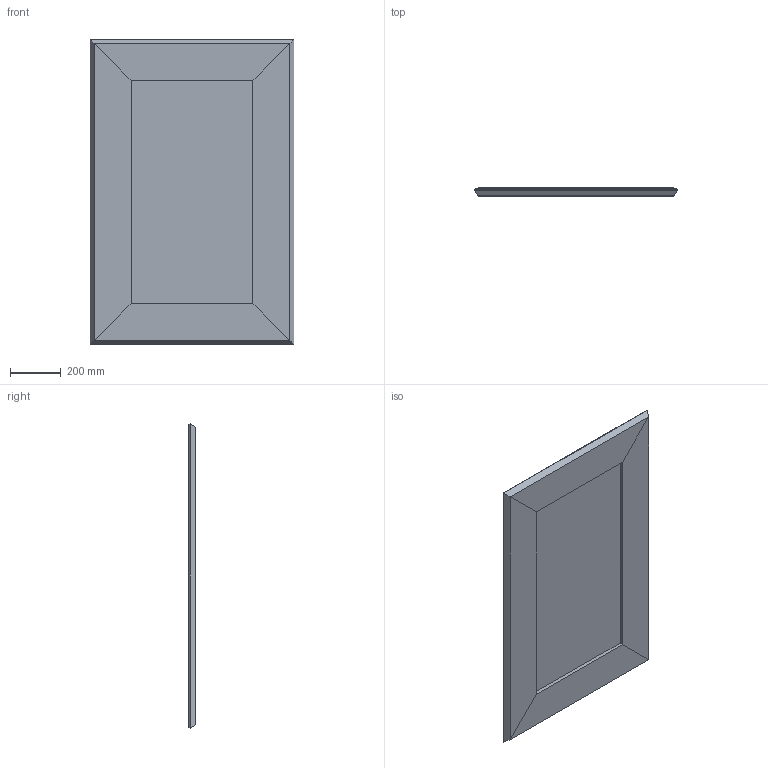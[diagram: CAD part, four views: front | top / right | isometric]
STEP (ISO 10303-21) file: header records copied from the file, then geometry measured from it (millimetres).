
FILE_DESCRIPTION (( 'STEP AP203' ), '1' );
FILE_NAME ('PRI03_Prisma_120x80.STEP', '2024-08-06T07:46:30', ( '' ), ( '' ), 'SwSTEP 2.0', 'SolidWorks 2022', '' );
FILE_SCHEMA (( 'CONFIG_CONTROL_DESIGN' ));
Length unit declared in the file: millimetre
Products named in the file (1): PRI03_Prisma_120x80
Bounding box: 800 x 30 x 1200 mm (x, y, z)
Volume: 19074702.8 mm3; surface area: 2331253.6 mm2
Topology: 5 solids, 5 shells, 166 faces, 424 edges, 272 vertices
Faces by surface type: plane 98, cylinder 44, cone 24
Entity records: 5101 total; most frequent: DIRECTION 870, CARTESIAN_POINT 863, ORIENTED_EDGE 848, EDGE_CURVE 424, VECTOR 312, LINE 312, AXIS2_PLACEMENT_3D 279, VERTEX_POINT 272
